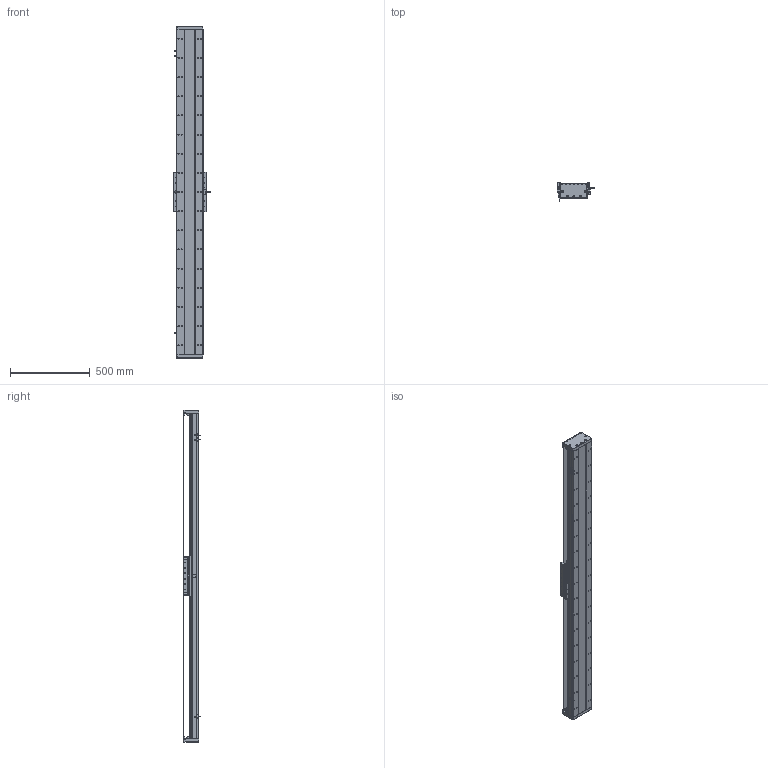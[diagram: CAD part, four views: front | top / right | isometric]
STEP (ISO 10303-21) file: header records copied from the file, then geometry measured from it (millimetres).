
FILE_DESCRIPTION (( 'STEP AP203' ), '1' );
FILE_NAME ('DA-C165-C3-T1740-C010-0.2 直线电机.STEP', '2023-06-13T08:48:42', ( '微软用户' ), ( '微软中国' ), 'SwSTEP 2.0', 'SolidWorks 2019', '' );
FILE_SCHEMA (( 'CONFIG_CONTROL_DESIGN' ));
Length unit declared in the file: millimetre
Products named in the file (18): 复件 CU165钢带组件^DA-C165-C3-T-C010-0.2-N 直线电机; 葩璃 CKM01-W075-TRL^DA-C165-C3-T-C010-0.2-N 眻盄萇儂; 复件 DA165-GD-DG-H-00 端盖^复件 CU165钢带组件_DA-C165-C3-T-C010-0.2-N 直线电机; IU-CU165-L 菁釱絳寢; 复件 六角薄螺母 M3^DA-C165-C3-T-C010-0.2-N 直线电机_GB_FASTENER_NUT_STNAB M3-C; 葩璃 PM-T45^DA-C165-C3-T-C010-0.2-N 眻盄萇儂; 葩璃 DA95-GT-T-00^IU-CU165-L 菁釱絳寢_T; 葩璃 CKM03-W075-C1C2-TP-3.0^DA-C165-C3-T-C010-0.2-N 眻盄萇儂; 复件 DA165-GDLK-00 钢带拉块^复件 CU165钢带组件_DA-C165-C3-T-C010-0.2-N 直线电机; 珨极趙賑雄怢啣C3-wf; 复件 DA165-GDYK-00 钢带压块^复件 CU165钢带组件_DA-C165-C3-T-C010-0.2-N 直线电机; DA-C165-C3-T1740-C010-0.2 眻盄萇儂; 复件 DA165-GD-1860-002-00 钢带盖板^复件 CU165钢带组件_DA-C165-C3-T-C010-0.2-N 直线电机; 复件 DMA-010-0.2 读数头^DA-C165-C3-T-C010-0.2-N 直线电机; 复件 CU165 底座^IU-CU165-L 底座导轨_L2040; 复件 XD-U-02L 磁栅尺^DA-C165-C3-T-C010-0.2-N 直线电机_T; 复件 DA95-HXJ-00 缓冲橡胶^DA-C165-C3-T-C010-0.2-N 直线电机; 复件 DA165-GYP-00 光电感应片^DA-C165-C3-T-C010-0.2-N 直线电机
Assembly tree (35 placements, depth 3):
  DA-C165-C3-T1740-C010-0.2 眻盄萇儂
    IU-CU165-L 菁釱絳寢
      复件 CU165 底座^IU-CU165-L 底座导轨_L2040
      葩璃 DA95-GT-T-00^IU-CU165-L 菁釱絳寢_T  x4
    复件 XD-U-02L 磁栅尺^DA-C165-C3-T-C010-0.2-N 直线电机_T
    葩璃 PM-T45^DA-C165-C3-T-C010-0.2-N 眻盄萇儂  x3
    葩璃 CKM01-W075-TRL^DA-C165-C3-T-C010-0.2-N 眻盄萇儂
    复件 CU165钢带组件^DA-C165-C3-T-C010-0.2-N 直线电机
      复件 DA165-GD-DG-H-00 端盖^复件 CU165钢带组件_DA-C165-C3-T-C010-0.2-N 直线电机  x2
      复件 DA165-GDYK-00 钢带压块^复件 CU165钢带组件_DA-C165-C3-T-C010-0.2-N 直线电机  x2
      复件 DA165-GD-1860-002-00 钢带盖板^复件 CU165钢带组件_DA-C165-C3-T-C010-0.2-N 直线电机
      复件 DA165-GDLK-00 钢带拉块^复件 CU165钢带组件_DA-C165-C3-T-C010-0.2-N 直线电机  x2
    复件 DA95-HXJ-00 缓冲橡胶^DA-C165-C3-T-C010-0.2-N 直线电机  x4
    复件 DA165-GYP-00 光电感应片^DA-C165-C3-T-C010-0.2-N 直线电机
    复件 DMA-010-0.2 读数头^DA-C165-C3-T-C010-0.2-N 直线电机
    葩璃 CKM03-W075-C1C2-TP-3.0^DA-C165-C3-T-C010-0.2-N 眻盄萇儂
    复件 六角薄螺母 M3^DA-C165-C3-T-C010-0.2-N 直线电机_GB_FASTENER_NUT_STNAB M3-C  x8
    珨极趙賑雄怢啣C3-wf
Bounding box: 233 x 111.45 x 2080 mm (x, y, z)
Volume: 12539944 mm3; surface area: 3643482.5 mm2
Topology: 72 solids, 122 shells, 4078 faces, 11399 edges, 7156 vertices
Faces by surface type: cylinder 2256, plane 1196, cone 576, torus 46, sphere 4
Entity records: 129237 total; most frequent: CARTESIAN_POINT 33549, ORIENTED_EDGE 19550, DIRECTION 19521, EDGE_CURVE 9775, AXIS2_PLACEMENT_3D 7476, VERTEX_POINT 6344, EDGE_LOOP 4617, VECTOR 4569
